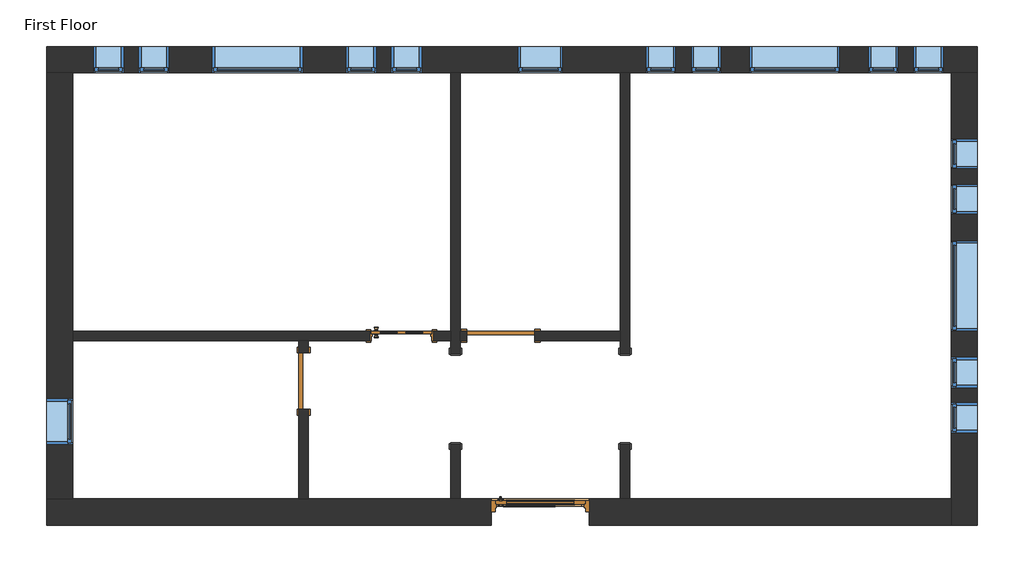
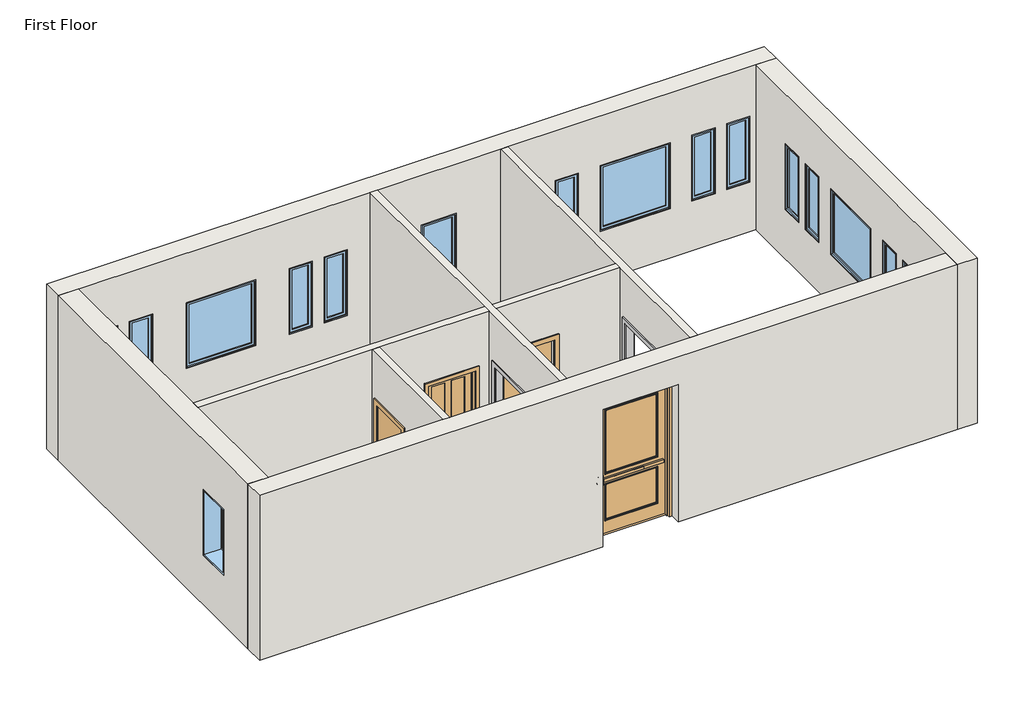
# One storey: 17 windows, 8 walls, 4 doors, 2 proxies.
"""IFC4 building model written with IfcOpenShell, lengths in millimetres."""

from ifc_helpers import new_model, si_unit, frame, origin, place, context, project, spatial, polyline, outline, extrude, faceted_brep, transform, mapped, element, save
from components import proxy_f44482cc, door_c4539963, door_interior_single_4_panel_wood_door_interior_single_4_f9b1e9fa, door_4d6c7550, door_a3eb833a, window_da97879f, window_d61ef850, window_60baf983, window_6eb97611

model = new_model("IFC4")

# Units and contexts
model_context = context("Model", 3, world=origin())
ifc_project = project(units=[si_unit("LENGTHUNIT", "METRE", prefix="MILLI")], contexts=[model_context])

# Site, building, storey
site = spatial("IfcSite", under=ifc_project)
building = spatial("IfcBuilding", under=site)
storey = spatial("IfcBuildingStorey", under=building, Name="First Floor", Elevation=0.0)

# Proxies
placement = place(None, origin())
proxy_shape = proxy_f44482cc(model_context)
element("IfcBuildingElementProxy", 1, Name="Passage Opening-Cased : 48\" x 84\"", ObjectType="Passage Opening-Cased : 48\" x 84\"", at=placement, inside=storey, context=model_context, shape_type="MappedRepresentation", body=[
    mapped(proxy_shape, transform((3208.4428612, 1537.2944757, 0.0), x_axis=(0.0, 1.0, 0.0), y_axis=(-1.0, 0.0, 0.0), z_axis=(0.0, 0.0, 1.0))),
])
element("IfcBuildingElementProxy", 2, Name="Passage Opening-Cased : 48\" x 84\"", ObjectType="Passage Opening-Cased : 48\" x 84\"", at=placement, inside=storey, context=model_context, shape_type="MappedRepresentation", body=[
    mapped(proxy_shape, transform((922.4428612, 1520.9171623, 0.0), x_axis=(0.0, -1.0, 0.0), y_axis=(1.0, 0.0, 0.0), z_axis=(0.0, 0.0, 1.0))),
])

# Doors
door_shape = door_c4539963(model_context)
element("IfcDoor", 3, ObjectType="Door-Exterior-Single-Two_Lite : 48\" x 96\"", at=placement, inside=storey, context=model_context, shape_type="MappedRepresentation", body=[
    mapped(door_shape, transform((2065.4428612, -1.244181, 0.0), x_axis=(1.0, 0.0, 0.0), y_axis=(0.0, 1.0, 0.0), z_axis=(0.0, 0.0, 1.0))),
])
door_interior_single_4_panel_wood_door_interior_single_4_shape = door_interior_single_4_panel_wood_door_interior_single_4_f9b1e9fa(model_context)
element("IfcDoor", 4, ObjectType="Door-Interior-Single-4_Panel-Wood : Door-Interior-Single-4_Panel-Wood", at=placement, inside=storey, context=model_context, shape_type="MappedRepresentation", body=[
    mapped(door_interior_single_4_panel_wood_door_interior_single_4_shape, transform((196.9553612, 2381.593319, 0.0), x_axis=(1.0, 0.0, 0.0), y_axis=(0.0, 1.0, 0.0), z_axis=(0.0, 0.0, 1.0))),
])
door_2_shape = door_4d6c7550(model_context)
element("IfcDoor", 5, ObjectType="Single-Flush : 30\" x 84\"", at=placement, inside=storey, context=model_context, shape_type="MappedRepresentation", body=[
    mapped(door_2_shape, transform((-1123.8446388, 1768.818319, 0.0), x_axis=(0.0, 1.0, 0.0), y_axis=(-1.0, 0.0, 0.0), z_axis=(0.0, 0.0, 1.0))),
])
door_3_shape = door_a3eb833a(model_context)
element("IfcDoor", 6, ObjectType="Single-Flush : 36\" x 84\"", at=placement, inside=storey, context=model_context, shape_type="MappedRepresentation", body=[
    mapped(door_3_shape, transform((1532.0428612, 2378.418319, 0.0), x_axis=(-1.0, 0.0, 0.0), y_axis=(0.0, -1.0, 0.0), z_axis=(0.0, 0.0, 1.0))),
])

# Walls
element("IfcWall", 7, ObjectType="Exterior - Brick on Mtl. Stud", at=placement, inside=storey, context=model_context, shape_type="Brep", body=[
    faceted_brep([(-4587.7696388, 5924.893319, 0.0), (-4235.3446388, 5924.893319, 0.0), (858.9428612, 5924.893319, 0.0), (985.9428612, 5924.893319, 0.0), (3144.9428612, 5924.893319, 0.0), (3271.9428612, 5924.893319, 0.0), (7604.2303612, 5924.893319, 0.0), (7956.6553612, 5924.893319, 0.0), (7956.6553612, 5924.893319, 3048.0), (7604.2303612, 5924.893319, 3048.0), (3271.9428612, 5924.893319, 3048.0), (3144.9428612, 5924.893319, 3048.0), (985.9428612, 5924.893319, 3048.0), (858.9428612, 5924.893319, 3048.0), (-4235.3446388, 5924.893319, 3048.0), (-4587.7696388, 5924.893319, 3048.0), (1760.6428612, 5924.893319, 2133.6), (2370.2428612, 5924.893319, 2133.6), (2370.2428612, 5924.893319, 914.4), (1760.6428612, 5924.893319, 914.4), (-2354.1571388, 5924.893319, 2133.6), (-1134.9571388, 5924.893319, 2133.6), (-1134.9571388, 5924.893319, 914.4), (-2354.1571388, 5924.893319, 914.4), (4884.8428612, 5924.893319, 2133.6), (6104.0428612, 5924.893319, 2133.6), (6104.0428612, 5924.893319, 914.4), (4884.8428612, 5924.893319, 914.4), (-3954.3571388, 5924.893319, 2133.6), (-3547.9571388, 5924.893319, 2133.6), (-3547.9571388, 5924.893319, 914.4), (-3954.3571388, 5924.893319, 914.4), (-3344.7571388, 5924.893319, 2133.6), (-2938.3571388, 5924.893319, 2133.6), (-2938.3571388, 5924.893319, 914.4), (-3344.7571388, 5924.893319, 914.4), (-144.3571388, 5924.893319, 2133.6), (-144.3571388, 5924.893319, 914.4), (-550.7571388, 5924.893319, 914.4), (-550.7571388, 5924.893319, 2133.6), (465.2428612, 5924.893319, 2133.6), (465.2428612, 5924.893319, 914.4), (58.8428612, 5924.893319, 914.4), (58.8428612, 5924.893319, 2133.6), (4097.4428612, 5924.893319, 2133.6), (4503.8428612, 5924.893319, 2133.6), (4503.8428612, 5924.893319, 914.4), (4097.4428612, 5924.893319, 914.4), (3487.8428612, 5924.893319, 2133.6), (3894.2428612, 5924.893319, 2133.6), (3894.2428612, 5924.893319, 914.4), (3487.8428612, 5924.893319, 914.4), (6891.4428612, 5924.893319, 2133.6), (6891.4428612, 5924.893319, 914.4), (6485.0428612, 5924.893319, 914.4), (6485.0428612, 5924.893319, 2133.6), (7501.0428612, 5924.893319, 2133.6), (7501.0428612, 5924.893319, 914.4), (7094.6428612, 5924.893319, 914.4), (7094.6428612, 5924.893319, 2133.6), (-4587.7696388, 6277.318319, 0.0), (-4587.7696388, 6277.318319, 3048.0), (7956.6553612, 6277.318319, 3048.0), (7956.6553612, 6277.318319, 0.0), (1760.6428612, 6277.318319, 2133.6), (1760.6428612, 6277.318319, 914.4), (2370.2428612, 6277.318319, 914.4), (2370.2428612, 6277.318319, 2133.6), (-2354.1571388, 6277.318319, 2133.6), (-2354.1571388, 6277.318319, 914.4), (-1134.9571388, 6277.318319, 914.4), (-1134.9571388, 6277.318319, 2133.6), (4884.8428612, 6277.318319, 2133.6), (4884.8428612, 6277.318319, 914.4), (6104.0428612, 6277.318319, 914.4), (6104.0428612, 6277.318319, 2133.6), (-3954.3571388, 6277.318319, 2133.6), (-3954.3571388, 6277.318319, 914.4), (-3547.9571388, 6277.318319, 914.4), (-3547.9571388, 6277.318319, 2133.6), (-3344.7571388, 6277.318319, 2133.6), (-3344.7571388, 6277.318319, 914.4), (-2938.3571388, 6277.318319, 914.4), (-2938.3571388, 6277.318319, 2133.6), (-144.3571388, 6277.318319, 2133.6), (-550.7571388, 6277.318319, 2133.6), (-550.7571388, 6277.318319, 914.4), (-144.3571388, 6277.318319, 914.4), (465.2428612, 6277.318319, 2133.6), (58.8428612, 6277.318319, 2133.6), (58.8428612, 6277.318319, 914.4), (465.2428612, 6277.318319, 914.4), (4097.4428612, 6277.318319, 2133.6), (4097.4428612, 6277.318319, 914.4), (4503.8428612, 6277.318319, 914.4), (4503.8428612, 6277.318319, 2133.6), (3487.8428612, 6277.318319, 2133.6), (3487.8428612, 6277.318319, 914.4), (3894.2428612, 6277.318319, 914.4), (3894.2428612, 6277.318319, 2133.6), (6891.4428612, 6277.318319, 2133.6), (6485.0428612, 6277.318319, 2133.6), (6485.0428612, 6277.318319, 914.4), (6891.4428612, 6277.318319, 914.4), (7501.0428612, 6277.318319, 2133.6), (7094.6428612, 6277.318319, 2133.6), (7094.6428612, 6277.318319, 914.4), (7501.0428612, 6277.318319, 914.4)], [[[0, 1, 2, 3, 4, 5, 6, 7, 8, 9, 10, 11, 12, 13, 14, 15], [16, 17, 18, 19], [20, 21, 22, 23], [24, 25, 26, 27], [28, 29, 30, 31], [32, 33, 34, 35], [36, 37, 38, 39], [40, 41, 42, 43], [44, 45, 46, 47], [48, 49, 50, 51], [52, 53, 54, 55], [56, 57, 58, 59]], [[60, 61, 62, 63], [64, 65, 66, 67], [68, 69, 70, 71], [72, 73, 74, 75], [76, 77, 78, 79], [80, 81, 82, 83], [84, 85, 86, 87], [88, 89, 90, 91], [92, 93, 94, 95], [96, 97, 98, 99], [100, 101, 102, 103], [104, 105, 106, 107]], [[7, 6, 5, 4, 3, 2, 1, 0, 60, 63]], [[15, 14, 13, 12, 11, 10, 9, 8, 62, 61]], [[8, 7, 63, 62]], [[0, 15, 61, 60]], [[65, 64, 16, 19]], [[66, 65, 19, 18]], [[67, 66, 18, 17]], [[64, 67, 17, 16]], [[69, 68, 20, 23]], [[70, 69, 23, 22]], [[71, 70, 22, 21]], [[68, 71, 21, 20]], [[73, 72, 24, 27]], [[74, 73, 27, 26]], [[75, 74, 26, 25]], [[72, 75, 25, 24]], [[77, 76, 28, 31]], [[78, 77, 31, 30]], [[79, 78, 30, 29]], [[76, 79, 29, 28]], [[81, 80, 32, 35]], [[82, 81, 35, 34]], [[83, 82, 34, 33]], [[80, 83, 33, 32]], [[37, 36, 84, 87]], [[38, 37, 87, 86]], [[39, 38, 86, 85]], [[36, 39, 85, 84]], [[41, 40, 88, 91]], [[42, 41, 91, 90]], [[43, 42, 90, 89]], [[40, 43, 89, 88]], [[93, 92, 44, 47]], [[94, 93, 47, 46]], [[95, 94, 46, 45]], [[92, 95, 45, 44]], [[97, 96, 48, 51]], [[98, 97, 51, 50]], [[99, 98, 50, 49]], [[96, 99, 49, 48]], [[53, 52, 100, 103]], [[54, 53, 103, 102]], [[55, 54, 102, 101]], [[52, 55, 101, 100]], [[57, 56, 104, 107]], [[58, 57, 107, 106]], [[59, 58, 106, 105]], [[56, 59, 105, 104]]]),
])
element("IfcWall", 8, ObjectType="Exterior - Brick on Mtl. Stud", at=placement, inside=storey, context=model_context, shape_type="Brep", body=[
    faceted_brep([(7604.2303612, 5924.893319, 0.0), (7604.2303612, 181.318319, 0.0), (7604.2303612, -171.106681, 0.0), (7604.2303612, -171.106681, 3048.0), (7604.2303612, 181.318319, 3048.0), (7604.2303612, 5924.893319, 3048.0), (7604.2303612, 3662.705819, 2133.6), (7604.2303612, 2443.505819, 2133.6), (7604.2303612, 2443.505819, 914.4), (7604.2303612, 3662.705819, 914.4), (7604.2303612, 4424.705819, 2133.6), (7604.2303612, 4018.305819, 2133.6), (7604.2303612, 4018.305819, 914.4), (7604.2303612, 4424.705819, 914.4), (7604.2303612, 5034.305819, 2133.6), (7604.2303612, 4627.905819, 2133.6), (7604.2303612, 4627.905819, 914.4), (7604.2303612, 5034.305819, 914.4), (7604.2303612, 1681.505819, 2133.6), (7604.2303612, 1681.505819, 914.4), (7604.2303612, 2087.905819, 914.4), (7604.2303612, 2087.905819, 2133.6), (7604.2303612, 1071.905819, 2133.6), (7604.2303612, 1071.905819, 914.4), (7604.2303612, 1478.305819, 914.4), (7604.2303612, 1478.305819, 2133.6), (7956.6553612, 5924.893319, 0.0), (7956.6553612, 5924.893319, 3048.0), (7956.6553612, -171.106681, 3048.0), (7956.6553612, -171.106681, 0.0), (7956.6553612, 3662.705819, 2133.6), (7956.6553612, 3662.705819, 914.4), (7956.6553612, 2443.505819, 914.4), (7956.6553612, 2443.505819, 2133.6), (7956.6553612, 4424.705819, 2133.6), (7956.6553612, 4424.705819, 914.4), (7956.6553612, 4018.305819, 914.4), (7956.6553612, 4018.305819, 2133.6), (7956.6553612, 5034.305819, 2133.6), (7956.6553612, 5034.305819, 914.4), (7956.6553612, 4627.905819, 914.4), (7956.6553612, 4627.905819, 2133.6), (7956.6553612, 1681.505819, 2133.6), (7956.6553612, 2087.905819, 2133.6), (7956.6553612, 2087.905819, 914.4), (7956.6553612, 1681.505819, 914.4), (7956.6553612, 1071.905819, 2133.6), (7956.6553612, 1478.305819, 2133.6), (7956.6553612, 1478.305819, 914.4), (7956.6553612, 1071.905819, 914.4)], [[[0, 1, 2, 3, 4, 5], [6, 7, 8, 9], [10, 11, 12, 13], [14, 15, 16, 17], [18, 19, 20, 21], [22, 23, 24, 25]], [[26, 27, 28, 29], [30, 31, 32, 33], [34, 35, 36, 37], [38, 39, 40, 41], [42, 43, 44, 45], [46, 47, 48, 49]], [[2, 1, 0, 26, 29]], [[5, 4, 3, 28, 27]], [[0, 5, 27, 26]], [[3, 2, 29, 28]], [[31, 30, 6, 9]], [[32, 31, 9, 8]], [[33, 32, 8, 7]], [[30, 33, 7, 6]], [[35, 34, 10, 13]], [[36, 35, 13, 12]], [[37, 36, 12, 11]], [[34, 37, 11, 10]], [[39, 38, 14, 17]], [[40, 39, 17, 16]], [[41, 40, 16, 15]], [[38, 41, 15, 14]], [[19, 18, 42, 45]], [[20, 19, 45, 44]], [[21, 20, 44, 43]], [[18, 21, 43, 42]], [[23, 22, 46, 49]], [[24, 23, 49, 48]], [[25, 24, 48, 47]], [[22, 25, 47, 46]]]),
])
element("IfcWall", 9, ObjectType="Exterior - Brick on Mtl. Stud", at=placement, inside=storey, context=model_context, shape_type="Brep", body=[
    faceted_brep([(-4587.7696388, 181.318319, 3048.0), (-4235.3446388, 181.318319, 3048.0), (-1187.3446388, 181.318319, 3048.0), (-1060.3446388, 181.318319, 3048.0), (858.9428612, 181.318319, 3048.0), (985.9428612, 181.318319, 3048.0), (3144.9428612, 181.318319, 3048.0), (3271.9428612, 181.318319, 3048.0), (7604.2303612, 181.318319, 3048.0), (7604.2303612, 181.318319, 0.0), (3271.9428612, 181.318319, 0.0), (3144.9428612, 181.318319, 0.0), (2725.8428612, 181.318319, 0.0), (2725.8428612, 181.318319, 2540.0), (1405.0428612, 181.318319, 2540.0), (1405.0428612, 181.318319, 0.0), (985.9428612, 181.318319, 0.0), (858.9428612, 181.318319, 0.0), (-1060.3446388, 181.318319, 0.0), (-1187.3446388, 181.318319, 0.0), (-4235.3446388, 181.318319, 0.0), (-4587.7696388, 181.318319, 0.0), (7604.2303612, -171.106681, 3048.0), (-4587.7696388, -171.106681, 3048.0), (-4587.7696388, -171.106681, 0.0), (1405.0428612, -171.106681, 0.0), (1405.0428612, -171.106681, 2540.0), (2725.8428612, -171.106681, 2540.0), (2725.8428612, -171.106681, 0.0), (7604.2303612, -171.106681, 0.0)], [[[0, 1, 2, 3, 4, 5, 6, 7, 8, 9, 10, 11, 12, 13, 14, 15, 16, 17, 18, 19, 20, 21]], [[22, 23, 24, 25, 26, 27, 28, 29]], [[9, 29, 28, 12, 11, 10]], [[24, 21, 20, 19, 18, 17, 16, 15, 25]], [[8, 7, 6, 5, 4, 3, 2, 1, 0, 23, 22]], [[9, 8, 22, 29]], [[0, 21, 24, 23]], [[27, 13, 12, 28]], [[13, 27, 26, 14]], [[14, 26, 25, 15]]]),
])
element("IfcWall", 10, ObjectType="Exterior - Brick on Mtl. Stud", at=placement, inside=storey, context=model_context, shape_type="Brep", body=[
    faceted_brep([(-4235.3446388, 181.318319, 0.0), (-4235.3446388, 2314.918319, 0.0), (-4235.3446388, 2441.918319, 0.0), (-4235.3446388, 5924.893319, 0.0), (-4235.3446388, 5924.893319, 3048.0), (-4235.3446388, 2441.918319, 3048.0), (-4235.3446388, 2314.918319, 3048.0), (-4235.3446388, 181.318319, 3048.0), (-4235.3446388, 919.505819, 2133.6), (-4235.3446388, 1529.105819, 2133.6), (-4235.3446388, 1529.105819, 914.4), (-4235.3446388, 919.505819, 914.4), (-4587.7696388, 181.318319, 0.0), (-4587.7696388, 181.318319, 3048.0), (-4587.7696388, 5924.893319, 3048.0), (-4587.7696388, 5924.893319, 0.0), (-4587.7696388, 919.505819, 2133.6), (-4587.7696388, 919.505819, 914.4), (-4587.7696388, 1529.105819, 914.4), (-4587.7696388, 1529.105819, 2133.6)], [[[0, 1, 2, 3, 4, 5, 6, 7], [8, 9, 10, 11]], [[12, 13, 14, 15], [16, 17, 18, 19]], [[3, 2, 1, 0, 12, 15]], [[7, 6, 5, 4, 14, 13]], [[0, 7, 13, 12]], [[4, 3, 15, 14]], [[17, 16, 8, 11]], [[18, 17, 11, 10]], [[19, 18, 10, 9]], [[16, 19, 9, 8]]]),
])
element("IfcWall", 11, ObjectType="Interior - 5\" Partition (2-hr)", at=placement, inside=storey, context=model_context, shape_type="Brep", body=[
    faceted_brep([(3144.9428612, 5924.893319, 0.0), (3144.9428612, 2441.918319, 0.0), (3144.9428612, 2314.918319, 0.0), (3144.9428612, 2138.705819, 0.0), (3144.9428612, 2138.705819, 2133.6), (3144.9428612, 919.505819, 2133.6), (3144.9428612, 919.505819, 0.0), (3144.9428612, 181.318319, 0.0), (3144.9428612, 181.318319, 3048.0), (3144.9428612, 2314.918319, 3048.0), (3144.9428612, 2441.918319, 3048.0), (3144.9428612, 5924.893319, 3048.0), (3271.9428612, 2138.705819, 2133.6), (3271.9428612, 2138.705819, 0.0), (3271.9428612, 5924.893319, 0.0), (3271.9428612, 5924.893319, 3048.0), (3271.9428612, 181.318319, 3048.0), (3271.9428612, 181.318319, 0.0), (3271.9428612, 919.505819, 0.0), (3271.9428612, 919.505819, 2133.6)], [[[0, 1, 2, 3, 4, 5, 6, 7, 8, 9, 10, 11]], [[12, 13, 14, 15, 16, 17, 18, 19]], [[18, 17, 7, 6]], [[14, 13, 3, 2, 1, 0]], [[11, 10, 9, 8, 16, 15]], [[0, 11, 15, 14]], [[8, 7, 17, 16]], [[6, 5, 19, 18]], [[4, 3, 13, 12]], [[5, 4, 12, 19]]]),
])
element("IfcWall", 12, ObjectType="Interior - 5\" Partition (2-hr)", at=placement, inside=storey, context=model_context, shape_type="Brep", body=[
    faceted_brep([(858.9428612, 919.505819, 2133.6), (858.9428612, 919.505819, 0.0), (858.9428612, 181.318319, 0.0), (858.9428612, 181.318319, 3048.0), (858.9428612, 2314.918319, 3048.0), (858.9428612, 2441.918319, 3048.0), (858.9428612, 5924.893319, 3048.0), (858.9428612, 5924.893319, 0.0), (858.9428612, 2441.918319, 0.0), (858.9428612, 2314.918319, 0.0), (858.9428612, 2138.705819, 0.0), (858.9428612, 2138.705819, 2133.6), (985.9428612, 181.318319, 0.0), (985.9428612, 919.505819, 0.0), (985.9428612, 919.505819, 2133.6), (985.9428612, 2138.705819, 2133.6), (985.9428612, 2138.705819, 0.0), (985.9428612, 2314.918319, 0.0), (985.9428612, 2441.918319, 0.0), (985.9428612, 5924.893319, 0.0), (985.9428612, 5924.893319, 3048.0), (985.9428612, 2441.918319, 3048.0), (985.9428612, 2314.918319, 3048.0), (985.9428612, 181.318319, 3048.0)], [[[0, 1, 2, 3, 4, 5, 6, 7, 8, 9, 10, 11]], [[12, 13, 14, 15, 16, 17, 18, 19, 20, 21, 22, 23]], [[2, 1, 13, 12]], [[10, 9, 8, 7, 19, 18, 17, 16]], [[6, 5, 4, 3, 23, 22, 21, 20]], [[7, 6, 20, 19]], [[3, 2, 12, 23]], [[16, 15, 11, 10]], [[14, 13, 1, 0]], [[15, 14, 0, 11]]]),
])
element("IfcWall", 13, ObjectType="Interior - 5\" Partition (2-hr)", at=placement, inside=storey, context=model_context, shape_type="Brep", body=[
    faceted_brep([(-4235.3446388, 2314.918319, 3048.0), (-4235.3446388, 2314.918319, 0.0), (-1187.3446388, 2314.918319, 0.0), (-1060.3446388, 2314.918319, 0.0), (-234.8446388, 2314.918319, 0.0), (-234.8446388, 2314.918319, 2057.4), (628.7553612, 2314.918319, 2057.4), (628.7553612, 2314.918319, 0.0), (858.9428612, 2314.918319, 0.0), (858.9428612, 2314.918319, 3048.0), (-1060.3446388, 2314.918319, 3048.0), (-1187.3446388, 2314.918319, 3048.0), (-4235.3446388, 2441.918319, 0.0), (-4235.3446388, 2441.918319, 3048.0), (858.9428612, 2441.918319, 3048.0), (858.9428612, 2441.918319, 0.0), (628.7553612, 2441.918319, 0.0), (628.7553612, 2441.918319, 2057.4), (-234.8446388, 2441.918319, 2057.4), (-234.8446388, 2441.918319, 0.0)], [[[0, 1, 2, 3, 4, 5, 6, 7, 8, 9, 10, 11]], [[12, 13, 14, 15, 16, 17, 18, 19]], [[1, 12, 19, 4, 3, 2]], [[7, 16, 15, 8]], [[13, 0, 11, 10, 9, 14]], [[1, 0, 13, 12]], [[9, 8, 15, 14]], [[6, 17, 16, 7]], [[17, 6, 5, 18]], [[18, 5, 4, 19]]]),
    faceted_brep([(3144.9428612, 2314.918319, 0.0), (3144.9428612, 2314.918319, 3048.0), (985.9428612, 2314.918319, 3048.0), (985.9428612, 2314.918319, 0.0), (1074.8428612, 2314.918319, 0.0), (1074.8428612, 2314.918319, 2133.6), (1989.2428612, 2314.918319, 2133.6), (1989.2428612, 2314.918319, 0.0), (3144.9428612, 2441.918319, 3048.0), (3144.9428612, 2441.918319, 0.0), (1989.2428612, 2441.918319, 0.0), (1989.2428612, 2441.918319, 2133.6), (1074.8428612, 2441.918319, 2133.6), (1074.8428612, 2441.918319, 0.0), (985.9428612, 2441.918319, 0.0), (985.9428612, 2441.918319, 3048.0)], [[[0, 1, 2, 3, 4, 5, 6, 7]], [[8, 9, 10, 11, 12, 13, 14, 15]], [[9, 0, 7, 10]], [[13, 4, 3, 14]], [[1, 8, 15, 2]], [[1, 0, 9, 8]], [[3, 2, 15, 14]], [[5, 4, 13, 12]], [[6, 5, 12, 11]], [[7, 6, 11, 10]]]),
])
element("IfcWall", 14, ObjectType="Interior - 5\" Partition (2-hr)", at=placement, inside=storey, context=model_context, shape_type="SweptSolid", body=[
    extrude(outline(polyline([(2314.918319, 0.0), (2149.818319, 0.0), (2149.818319, 2133.6), (1387.818319, 2133.6), (1387.818319, 0.0), (181.318319, 0.0), (181.318319, 3048.0), (2314.918319, 3048.0), (2314.918319, 0.0)])), frame((-1187.3446388, 0.0, 0.0), z_axis=(1.0, 0.0, 0.0), x_axis=(0.0, 1.0, 0.0)), (0.0, 0.0, 1.0), 127.0),
])

# Windows
window_shape = window_da97879f(model_context)
element("IfcWindow", 15, ObjectType="Fixed : 16\" x 48\"", at=placement, inside=storey, context=model_context, shape_type="MappedRepresentation", body=[
    mapped(window_shape, transform((-3789.2571388, 6101.105819, 0.0), x_axis=(-1.0, 0.0, 0.0), y_axis=(0.0, -1.0, 0.0), z_axis=(0.0, 0.0, 1.0))),
])
element("IfcWindow", 16, ObjectType="Fixed : 16\" x 48\"", at=placement, inside=storey, context=model_context, shape_type="MappedRepresentation", body=[
    mapped(window_shape, transform((-3179.6571388, 6101.105819, 0.0), x_axis=(-1.0, 0.0, 0.0), y_axis=(0.0, -1.0, 0.0), z_axis=(0.0, 0.0, 1.0))),
])
element("IfcWindow", 17, ObjectType="Fixed : 16\" x 48\"", at=placement, inside=storey, context=model_context, shape_type="MappedRepresentation", body=[
    mapped(window_shape, transform((3652.9428612, 6101.105819, 0.0), x_axis=(-1.0, 0.0, 0.0), y_axis=(0.0, -1.0, 0.0), z_axis=(0.0, 0.0, 1.0))),
])
element("IfcWindow", 18, ObjectType="Fixed : 16\" x 48\"", at=placement, inside=storey, context=model_context, shape_type="MappedRepresentation", body=[
    mapped(window_shape, transform((4262.5428612, 6101.105819, 0.0), x_axis=(-1.0, 0.0, 0.0), y_axis=(0.0, -1.0, 0.0), z_axis=(0.0, 0.0, 1.0))),
])
element("IfcWindow", 19, ObjectType="Fixed : 16\" x 48\"", at=placement, inside=storey, context=model_context, shape_type="MappedRepresentation", body=[
    mapped(window_shape, transform((7780.4428612, 4869.205819, 0.0), x_axis=(0.0, 1.0, 0.0), y_axis=(-1.0, 0.0, 0.0), z_axis=(0.0, 0.0, 1.0))),
])
element("IfcWindow", 20, ObjectType="Fixed : 16\" x 48\"", at=placement, inside=storey, context=model_context, shape_type="MappedRepresentation", body=[
    mapped(window_shape, transform((7780.4428612, 4259.605819, 0.0), x_axis=(0.0, 1.0, 0.0), y_axis=(-1.0, 0.0, 0.0), z_axis=(0.0, 0.0, 1.0))),
])
window_2_shape = window_d61ef850(model_context)
element("IfcWindow", 21, ObjectType="Fixed : 16\" x 48\"", at=placement, inside=storey, context=model_context, shape_type="MappedRepresentation", body=[
    mapped(window_2_shape, transform((300.1428612, 6101.105819, 0.0), x_axis=(1.0, 0.0, 0.0), y_axis=(0.0, 1.0, 0.0), z_axis=(0.0, 0.0, 1.0))),
])
element("IfcWindow", 22, ObjectType="Fixed : 16\" x 48\"", at=placement, inside=storey, context=model_context, shape_type="MappedRepresentation", body=[
    mapped(window_2_shape, transform((-309.4571388, 6101.105819, 0.0), x_axis=(1.0, 0.0, 0.0), y_axis=(0.0, 1.0, 0.0), z_axis=(0.0, 0.0, 1.0))),
])
element("IfcWindow", 23, ObjectType="Fixed : 16\" x 48\"", at=placement, inside=storey, context=model_context, shape_type="MappedRepresentation", body=[
    mapped(window_2_shape, transform((7335.9428612, 6101.105819, 0.0), x_axis=(1.0, 0.0, 0.0), y_axis=(0.0, 1.0, 0.0), z_axis=(0.0, 0.0, 1.0))),
])
element("IfcWindow", 24, ObjectType="Fixed : 16\" x 48\"", at=placement, inside=storey, context=model_context, shape_type="MappedRepresentation", body=[
    mapped(window_2_shape, transform((6726.3428612, 6101.105819, 0.0), x_axis=(1.0, 0.0, 0.0), y_axis=(0.0, 1.0, 0.0), z_axis=(0.0, 0.0, 1.0))),
])
element("IfcWindow", 25, ObjectType="Fixed : 16\" x 48\"", at=placement, inside=storey, context=model_context, shape_type="MappedRepresentation", body=[
    mapped(window_2_shape, transform((7780.4428612, 1237.005819, 0.0), x_axis=(0.0, -1.0, 0.0), y_axis=(1.0, 0.0, 0.0), z_axis=(0.0, 0.0, 1.0))),
])
element("IfcWindow", 26, ObjectType="Fixed : 16\" x 48\"", at=placement, inside=storey, context=model_context, shape_type="MappedRepresentation", body=[
    mapped(window_2_shape, transform((7780.4428612, 1846.605819, 0.0), x_axis=(0.0, -1.0, 0.0), y_axis=(1.0, 0.0, 0.0), z_axis=(0.0, 0.0, 1.0))),
])
window_3_shape = window_60baf983(model_context)
element("IfcWindow", 27, ObjectType="Fixed : 24\" x 48\"", at=placement, inside=storey, context=model_context, shape_type="MappedRepresentation", body=[
    mapped(window_3_shape, transform((2027.3428612, 6101.105819, 0.0), x_axis=(-1.0, 0.0, 0.0), y_axis=(0.0, -1.0, 0.0), z_axis=(0.0, 0.0, 1.0))),
])
element("IfcWindow", 28, ObjectType="Fixed : 24\" x 48\"", at=placement, inside=storey, context=model_context, shape_type="MappedRepresentation", body=[
    mapped(window_3_shape, transform((-4411.5571388, 1186.205819, 0.0), x_axis=(0.0, -1.0, 0.0), y_axis=(1.0, 0.0, 0.0), z_axis=(0.0, 0.0, 1.0))),
])
window_4_shape = window_6eb97611(model_context)
element("IfcWindow", 29, ObjectType="Fixed : 48\" x 48\"", at=placement, inside=storey, context=model_context, shape_type="MappedRepresentation", body=[
    mapped(window_4_shape, transform((-1782.6571388, 6101.105819, 0.0), x_axis=(-1.0, 0.0, 0.0), y_axis=(0.0, -1.0, 0.0), z_axis=(0.0, 0.0, 1.0))),
])
element("IfcWindow", 30, ObjectType="Fixed : 48\" x 48\"", at=placement, inside=storey, context=model_context, shape_type="MappedRepresentation", body=[
    mapped(window_4_shape, transform((5456.3428612, 6101.105819, 0.0), x_axis=(-1.0, 0.0, 0.0), y_axis=(0.0, -1.0, 0.0), z_axis=(0.0, 0.0, 1.0))),
])
element("IfcWindow", 31, ObjectType="Fixed : 48\" x 48\"", at=placement, inside=storey, context=model_context, shape_type="MappedRepresentation", body=[
    mapped(window_4_shape, transform((7780.4428612, 3091.205819, 0.0), x_axis=(0.0, 1.0, 0.0), y_axis=(-1.0, 0.0, 0.0), z_axis=(0.0, 0.0, 1.0))),
])

save(model, "model.ifc")
